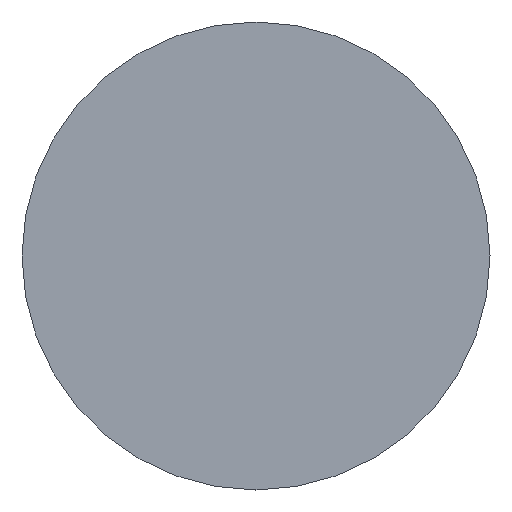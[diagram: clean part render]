
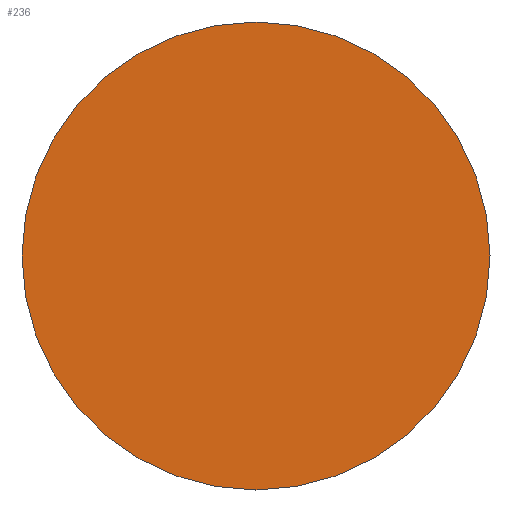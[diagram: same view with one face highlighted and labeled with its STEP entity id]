
A CAD part, left-side view. The second image highlights one B-rep face of the part: STEP entity #236.
In plain terms, the highlighted planar face has unit normal (-1, 0, 0).
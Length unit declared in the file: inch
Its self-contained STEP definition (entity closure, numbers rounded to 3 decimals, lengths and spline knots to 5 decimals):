
#78 = AXIS2_PLACEMENT_3D ( 'NONE', #155, #556, #387 ) ;
#92 = CARTESIAN_POINT ( 'NONE',  ( -3., 0., 0.09375 ) ) ;
#98 = CARTESIAN_POINT ( 'NONE',  ( -3., 0., -0.09375 ) ) ;
#146 = AXIS2_PLACEMENT_3D ( 'NONE', #398, #447, #306 ) ;
#155 = CARTESIAN_POINT ( 'NONE',  ( -3., 0.09375, 0. ) ) ;
#230 = ORIENTED_EDGE ( 'NONE', *, *, #486, .T. ) ;
#236 = ADVANCED_FACE ( 'NONE', ( #265 ), #468, .F. ) ;
#238 = AXIS2_PLACEMENT_3D ( 'NONE', #256, #359, #509 ) ;
#256 = CARTESIAN_POINT ( 'NONE',  ( -3., 0., 0. ) ) ;
#265 = FACE_OUTER_BOUND ( 'NONE', #277, .T. ) ;
#277 = EDGE_LOOP ( 'NONE', ( #537, #230 ) ) ;
#306 = DIRECTION ( 'NONE',  ( 0., 0., 1. ) ) ;
#310 = VERTEX_POINT ( 'NONE', #92 ) ;
#359 = DIRECTION ( 'NONE',  ( -1., 0., 0. ) ) ;
#370 = VERTEX_POINT ( 'NONE', #98 ) ;
#387 = DIRECTION ( 'NONE',  ( 0., 0., -1. ) ) ;
#398 = CARTESIAN_POINT ( 'NONE',  ( -3., 0., 0. ) ) ;
#447 = DIRECTION ( 'NONE',  ( -1., 0., 0. ) ) ;
#448 = EDGE_CURVE ( 'NONE', #310, #370, #462, .T. ) ;
#462 = CIRCLE ( 'NONE', #146, 0.09375 ) ;
#468 = PLANE ( 'NONE',  #78 ) ;
#486 = EDGE_CURVE ( 'NONE', #370, #310, #510, .T. ) ;
#509 = DIRECTION ( 'NONE',  ( 0., 0., 1. ) ) ;
#510 = CIRCLE ( 'NONE', #238, 0.09375 ) ;
#537 = ORIENTED_EDGE ( 'NONE', *, *, #448, .T. ) ;
#556 = DIRECTION ( 'NONE',  ( 1., 0., 0. ) ) ;
